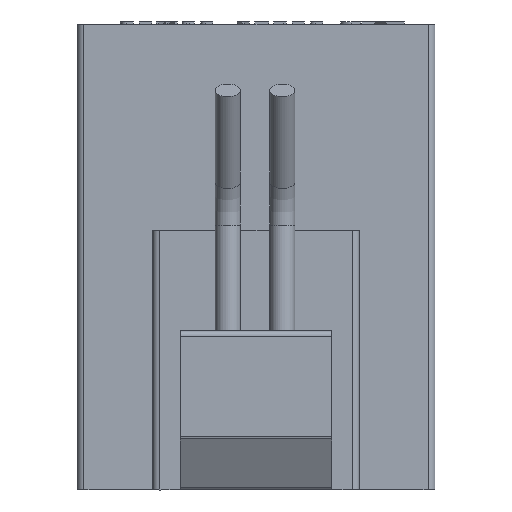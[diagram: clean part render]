
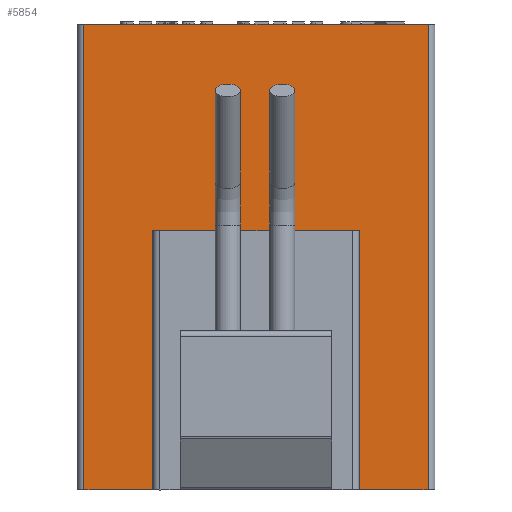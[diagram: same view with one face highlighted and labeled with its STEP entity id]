
A CAD part, front view. The second image highlights one B-rep face of the part: STEP entity #5854.
In plain terms, the highlighted planar face has unit normal (0, -1, 0).
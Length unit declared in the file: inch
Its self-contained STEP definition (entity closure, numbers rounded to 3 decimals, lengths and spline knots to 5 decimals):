
#5389=CARTESIAN_POINT('',(-0.74998,-1.055,2.149));
#5390=VERTEX_POINT('',#5389);
#5400=CARTESIAN_POINT('',(0.74998,-1.055,2.149));
#5401=VERTEX_POINT('',#5400);
#5402=CARTESIAN_POINT('',(0.74998,-1.055,2.149));
#5403=DIRECTION('',(-1.0,0.0,0.0));
#5404=VECTOR('',#5403,1.49996);
#5405=LINE('',#5402,#5404);
#5406=EDGE_CURVE('',#5401,#5390,#5405,.T.);
#5509=CARTESIAN_POINT('',(-0.74998,-1.055,0.119));
#5510=VERTEX_POINT('',#5509);
#5511=CARTESIAN_POINT('',(-0.44964,-1.055,0.119));
#5512=VERTEX_POINT('',#5511);
#5513=CARTESIAN_POINT('',(-0.74998,-1.055,0.119));
#5514=DIRECTION('',(1.0,0.0,0.0));
#5515=VECTOR('',#5514,0.30034);
#5516=LINE('',#5513,#5515);
#5517=EDGE_CURVE('',#5510,#5512,#5516,.T.);
#5553=CARTESIAN_POINT('',(0.74998,-1.055,0.119));
#5554=VERTEX_POINT('',#5553);
#5562=CARTESIAN_POINT('',(0.44964,-1.055,0.119));
#5563=VERTEX_POINT('',#5562);
#5564=CARTESIAN_POINT('',(0.44964,-1.055,0.119));
#5565=DIRECTION('',(1.0,0.0,0.0));
#5566=VECTOR('',#5565,0.30034);
#5567=LINE('',#5564,#5566);
#5568=EDGE_CURVE('',#5563,#5554,#5567,.T.);
#5644=CARTESIAN_POINT('',(-0.74998,-1.055,2.149));
#5645=DIRECTION('',(0.0,0.0,-1.0));
#5646=VECTOR('',#5645,2.03);
#5647=LINE('',#5644,#5646);
#5648=EDGE_CURVE('',#5390,#5510,#5647,.T.);
#5811=CARTESIAN_POINT('',(0.74998,-1.055,2.149));
#5812=DIRECTION('',(0.0,0.0,-1.0));
#5813=VECTOR('',#5812,2.03);
#5814=LINE('',#5811,#5813);
#5815=EDGE_CURVE('',#5401,#5554,#5814,.T.);
#5820=CARTESIAN_POINT('',(-0.74998,-1.055,2.149));
#5821=DIRECTION('',(0.0,-1.0,0.0));
#5822=DIRECTION('',(0.0,0.0,1.0));
#5823=AXIS2_PLACEMENT_3D('',#5820,#5821,#5822);
#5824=PLANE('',#5823);
#5825=CARTESIAN_POINT('',(0.44964,-1.055,1.249));
#5826=VERTEX_POINT('',#5825);
#5827=CARTESIAN_POINT('',(0.44964,-1.055,1.249));
#5828=DIRECTION('',(0.0,0.0,-1.0));
#5829=VECTOR('',#5828,1.13);
#5830=LINE('',#5827,#5829);
#5831=EDGE_CURVE('',#5826,#5563,#5830,.T.);
#5832=ORIENTED_EDGE('',*,*,#5831,.T.);
#5833=ORIENTED_EDGE('',*,*,#5568,.T.);
#5834=ORIENTED_EDGE('',*,*,#5815,.F.);
#5835=ORIENTED_EDGE('',*,*,#5406,.T.);
#5836=ORIENTED_EDGE('',*,*,#5648,.T.);
#5837=ORIENTED_EDGE('',*,*,#5517,.T.);
#5838=CARTESIAN_POINT('',(-0.44964,-1.055,1.249));
#5839=VERTEX_POINT('',#5838);
#5840=CARTESIAN_POINT('',(-0.44964,-1.055,0.119));
#5841=DIRECTION('',(0.0,0.0,1.0));
#5842=VECTOR('',#5841,1.13);
#5843=LINE('',#5840,#5842);
#5844=EDGE_CURVE('',#5512,#5839,#5843,.T.);
#5845=ORIENTED_EDGE('',*,*,#5844,.T.);
#5846=CARTESIAN_POINT('',(-0.44964,-1.055,1.249));
#5847=DIRECTION('',(1.0,0.0,0.0));
#5848=VECTOR('',#5847,0.89928);
#5849=LINE('',#5846,#5848);
#5850=EDGE_CURVE('',#5839,#5826,#5849,.T.);
#5851=ORIENTED_EDGE('',*,*,#5850,.T.);
#5852=EDGE_LOOP('',(#5832,#5833,#5834,#5835,#5836,#5837,#5845,#5851));
#5853=FACE_OUTER_BOUND('',#5852,.T.);
#5854=ADVANCED_FACE('',(#5853),#5824,.T.);
